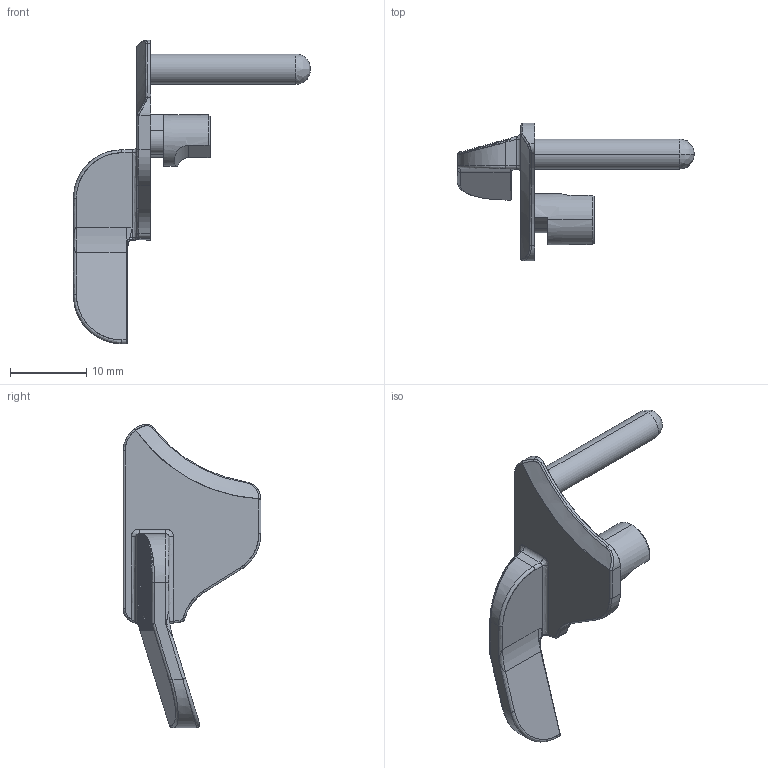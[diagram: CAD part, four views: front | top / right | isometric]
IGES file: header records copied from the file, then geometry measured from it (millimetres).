
Start section: SolidWorks IGES file using analytic representation for surfaces
Global section: file name: \\PSSILO\catalogs\CONTENTCENTRAL\Thumb Safety\Cache\A8FDA020-1686-4A6C-B45C-1FA629CA0042.IGS; native system: SolidWorks 2009; preprocessor: SolidWorks 2009; author: partstream; date: 090718.234517; units: inch
Bounding box: 31.05 x 18.03 x 39.76 mm (x, y, z)
Surface area: 1722 mm2 (no closed solid volume)
Topology: 0 solids, 0 shells, 190 faces, 1704 edges, 1700 vertices
Faces by surface type: bspline 123, revolution 67
